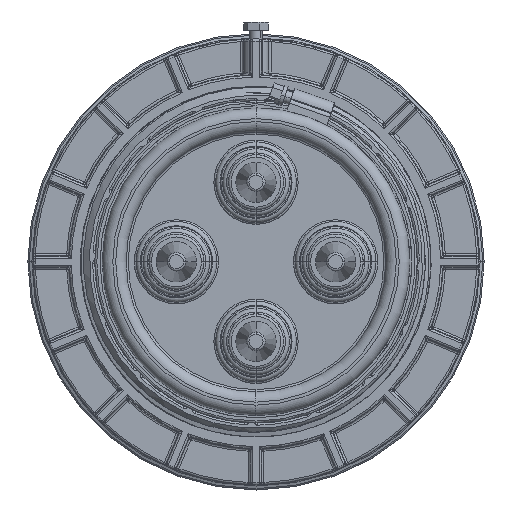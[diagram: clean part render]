
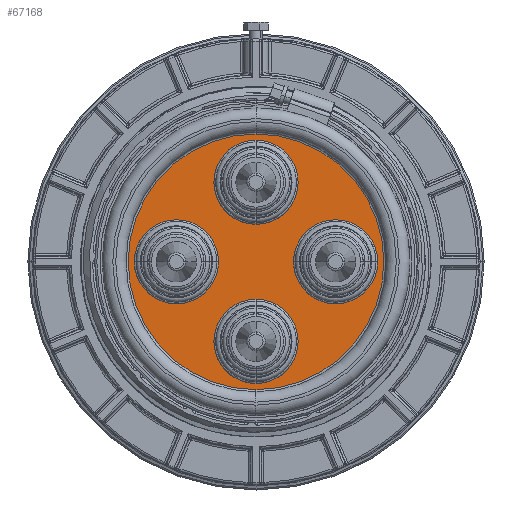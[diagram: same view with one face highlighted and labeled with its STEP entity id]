
A CAD part, front view. The second image highlights one B-rep face of the part: STEP entity #67168.
In plain terms, the highlighted planar face has unit normal (0, -1, 0).
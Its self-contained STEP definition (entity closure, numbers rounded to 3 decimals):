
#124 = AXIS2_PLACEMENT_3D ( 'NONE', #35235, #35239, #35240 ) ;
#2763 = VERTEX_POINT ( 'NONE', #19284 ) ;
#2765 = VERTEX_POINT ( 'NONE', #19258 ) ;
#2798 = VERTEX_POINT ( 'NONE', #19402 ) ;
#2800 = VERTEX_POINT ( 'NONE', #19400 ) ;
#2837 = VERTEX_POINT ( 'NONE', #19723 ) ;
#2838 = VERTEX_POINT ( 'NONE', #19725 ) ;
#2893 = VERTEX_POINT ( 'NONE', #20140 ) ;
#2894 = VERTEX_POINT ( 'NONE', #20167 ) ;
#2949 = VERTEX_POINT ( 'NONE', #20676 ) ;
#2950 = VERTEX_POINT ( 'NONE', #20761 ) ;
#8596 = CIRCLE ( 'NONE', #8610, 60.222 ) ;
#8610 = AXIS2_PLACEMENT_3D ( 'NONE', #24793, #24794, #24795 ) ;
#8899 = CIRCLE ( 'NONE', #8909, 19.306 ) ;
#8909 = AXIS2_PLACEMENT_3D ( 'NONE', #25094, #25095, #25096 ) ;
#19258 = CARTESIAN_POINT ( 'NONE',  ( 18.194, 9.311, 0. ) ) ;
#19284 = CARTESIAN_POINT ( 'NONE',  ( 0., 9.311, 60.222 ) ) ;
#19400 = CARTESIAN_POINT ( 'NONE',  ( 56.806, 9.311, 0. ) ) ;
#19402 = CARTESIAN_POINT ( 'NONE',  ( 0., 9.311, -60.222 ) ) ;
#19723 = CARTESIAN_POINT ( 'NONE',  ( 0., 9.311, -18.194 ) ) ;
#19725 = CARTESIAN_POINT ( 'NONE',  ( 0., 9.311, -56.806 ) ) ;
#20140 = CARTESIAN_POINT ( 'NONE',  ( -18.194, 9.311, 0. ) ) ;
#20167 = CARTESIAN_POINT ( 'NONE',  ( -56.806, 9.311, 0. ) ) ;
#20463 = EDGE_CURVE ( 'NONE', #2798, #2763, #73997, .T. ) ;
#20467 = EDGE_CURVE ( 'NONE', #2949, #2950, #73995, .T. ) ;
#20470 = EDGE_CURVE ( 'NONE', #2893, #2894, #73993, .T. ) ;
#20473 = EDGE_CURVE ( 'NONE', #2837, #2838, #73991, .T. ) ;
#20478 = EDGE_CURVE ( 'NONE', #2765, #2800, #73988, .T. ) ;
#20676 = CARTESIAN_POINT ( 'NONE',  ( 0., 9.311, 18.194 ) ) ;
#20761 = CARTESIAN_POINT ( 'NONE',  ( 0., 9.311, 56.806 ) ) ;
#23418 = ORIENTED_EDGE ( 'NONE', *, *, #40221, .T. ) ;
#23419 = ORIENTED_EDGE ( 'NONE', *, *, #20463, .T. ) ;
#23420 = ORIENTED_EDGE ( 'NONE', *, *, #41494, .T. ) ;
#23421 = ORIENTED_EDGE ( 'NONE', *, *, #20467, .T. ) ;
#23422 = ORIENTED_EDGE ( 'NONE', *, *, #41382, .T. ) ;
#23423 = ORIENTED_EDGE ( 'NONE', *, *, #20470, .T. ) ;
#23424 = ORIENTED_EDGE ( 'NONE', *, *, #40438, .T. ) ;
#23425 = ORIENTED_EDGE ( 'NONE', *, *, #20473, .T. ) ;
#23426 = ORIENTED_EDGE ( 'NONE', *, *, #40545, .T. ) ;
#23427 = ORIENTED_EDGE ( 'NONE', *, *, #20478, .T. ) ;
#24793 = CARTESIAN_POINT ( 'NONE',  ( 0., 9.311, 0. ) ) ;
#24794 = DIRECTION ( 'NONE',  ( 0., -1., 0. ) ) ;
#24795 = DIRECTION ( 'NONE',  ( 0., 0., -1. ) ) ;
#25094 = CARTESIAN_POINT ( 'NONE',  ( 0., 9.311, -37.5 ) ) ;
#25095 = DIRECTION ( 'NONE',  ( 0., 1., 0. ) ) ;
#25096 = DIRECTION ( 'NONE',  ( 0., 0., -1. ) ) ;
#25248 = CARTESIAN_POINT ( 'NONE',  ( 37.5, 9.311, 0. ) ) ;
#25249 = DIRECTION ( 'NONE',  ( 0., 1., 0. ) ) ;
#25250 = DIRECTION ( 'NONE',  ( 1., 0., 0. ) ) ;
#35228 = PLANE ( 'NONE',  #124 ) ;
#35231 = FACE_BOUND ( 'NONE', #61188, .T. ) ;
#35232 = FACE_OUTER_BOUND ( 'NONE', #61176, .T. ) ;
#35234 = FACE_BOUND ( 'NONE', #61183, .T. ) ;
#35235 = CARTESIAN_POINT ( 'NONE',  ( -61.095, 9.311, 0. ) ) ;
#35236 = FACE_BOUND ( 'NONE', #61178, .T. ) ;
#35238 = FACE_BOUND ( 'NONE', #61187, .T. ) ;
#35239 = DIRECTION ( 'NONE',  ( 0., -1., 0. ) ) ;
#35240 = DIRECTION ( 'NONE',  ( 0., 0., -1. ) ) ;
#40221 = EDGE_CURVE ( 'NONE', #2763, #2798, #8596, .T. ) ;
#40438 = EDGE_CURVE ( 'NONE', #2838, #2837, #8899, .T. ) ;
#40545 = EDGE_CURVE ( 'NONE', #2800, #2765, #48203, .T. ) ;
#41382 = EDGE_CURVE ( 'NONE', #2894, #2893, #48461, .T. ) ;
#41494 = EDGE_CURVE ( 'NONE', #2950, #2949, #48549, .T. ) ;
#46805 = CARTESIAN_POINT ( 'NONE',  ( 0., 9.311, 0. ) ) ;
#46806 = DIRECTION ( 'NONE',  ( 0., -1., 0. ) ) ;
#46808 = DIRECTION ( 'NONE',  ( 0., 0., -1. ) ) ;
#46812 = CARTESIAN_POINT ( 'NONE',  ( 0., 9.311, 37.5 ) ) ;
#46813 = DIRECTION ( 'NONE',  ( 0., 1., 0. ) ) ;
#46815 = DIRECTION ( 'NONE',  ( 0., 0., 1. ) ) ;
#46819 = CARTESIAN_POINT ( 'NONE',  ( -37.5, 9.311, 0. ) ) ;
#46821 = DIRECTION ( 'NONE',  ( 0., 1., 0. ) ) ;
#46822 = DIRECTION ( 'NONE',  ( -1., 0., 0. ) ) ;
#46826 = CARTESIAN_POINT ( 'NONE',  ( 0., 9.311, -37.5 ) ) ;
#46828 = DIRECTION ( 'NONE',  ( 0., 1., 0. ) ) ;
#46829 = DIRECTION ( 'NONE',  ( 0., 0., -1. ) ) ;
#46833 = CARTESIAN_POINT ( 'NONE',  ( 37.5, 9.311, 0. ) ) ;
#46835 = DIRECTION ( 'NONE',  ( 0., 1., 0. ) ) ;
#46837 = DIRECTION ( 'NONE',  ( 1., 0., 0. ) ) ;
#48203 = CIRCLE ( 'NONE', #48213, 19.306 ) ;
#48213 = AXIS2_PLACEMENT_3D ( 'NONE', #25248, #25249, #25250 ) ;
#48461 = CIRCLE ( 'NONE', #48463, 19.306 ) ;
#48463 = AXIS2_PLACEMENT_3D ( 'NONE', #49082, #49083, #49084 ) ;
#48549 = CIRCLE ( 'NONE', #48551, 19.306 ) ;
#48551 = AXIS2_PLACEMENT_3D ( 'NONE', #49235, #49236, #49237 ) ;
#49082 = CARTESIAN_POINT ( 'NONE',  ( -37.5, 9.311, 0. ) ) ;
#49083 = DIRECTION ( 'NONE',  ( 0., 1., 0. ) ) ;
#49084 = DIRECTION ( 'NONE',  ( -1., 0., 0. ) ) ;
#49235 = CARTESIAN_POINT ( 'NONE',  ( 0., 9.311, 37.5 ) ) ;
#49236 = DIRECTION ( 'NONE',  ( 0., 1., 0. ) ) ;
#49237 = DIRECTION ( 'NONE',  ( 0., 0., 1. ) ) ;
#61176 = EDGE_LOOP ( 'NONE', ( #23418, #23419 ) ) ;
#61178 = EDGE_LOOP ( 'NONE', ( #23422, #23423 ) ) ;
#61183 = EDGE_LOOP ( 'NONE', ( #23420, #23421 ) ) ;
#61187 = EDGE_LOOP ( 'NONE', ( #23424, #23425 ) ) ;
#61188 = EDGE_LOOP ( 'NONE', ( #23426, #23427 ) ) ;
#67168 = ADVANCED_FACE ( 'NONE', ( #35232, #35234, #35236, #35238, #35231 ), #35228, .T. ) ;
#73981 = AXIS2_PLACEMENT_3D ( 'NONE', #46833, #46835, #46837 ) ;
#73983 = AXIS2_PLACEMENT_3D ( 'NONE', #46826, #46828, #46829 ) ;
#73985 = AXIS2_PLACEMENT_3D ( 'NONE', #46819, #46821, #46822 ) ;
#73988 = CIRCLE ( 'NONE', #73981, 19.306 ) ;
#73990 = AXIS2_PLACEMENT_3D ( 'NONE', #46812, #46813, #46815 ) ;
#73991 = CIRCLE ( 'NONE', #73983, 19.306 ) ;
#73992 = AXIS2_PLACEMENT_3D ( 'NONE', #46805, #46806, #46808 ) ;
#73993 = CIRCLE ( 'NONE', #73985, 19.306 ) ;
#73995 = CIRCLE ( 'NONE', #73990, 19.306 ) ;
#73997 = CIRCLE ( 'NONE', #73992, 60.222 ) ;
